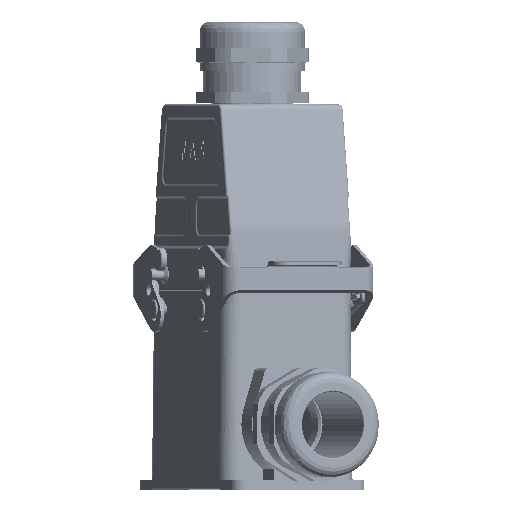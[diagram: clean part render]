
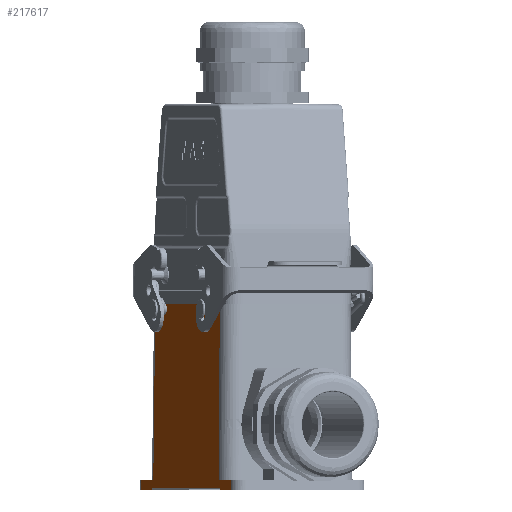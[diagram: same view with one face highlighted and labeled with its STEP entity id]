
A CAD part, left-side view. The second image highlights one B-rep face of the part: STEP entity #217617.
In plain terms, the highlighted planar face has unit normal (-0.383, 0.924, 0.009) as drawn and (0, -1, 0.009) by its records, which use the part's own axes.
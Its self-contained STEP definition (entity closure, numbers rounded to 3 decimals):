
#4034 = VECTOR ( 'NONE', #52625, 1000. ) ;
#5176 = CARTESIAN_POINT ( 'NONE',  ( -47.75, -29.102, -46. ) ) ;
#7457 = EDGE_CURVE ( 'NONE', #119378, #208171, #221746, .T. ) ;
#13367 = EDGE_CURVE ( 'NONE', #123101, #29850, #148685, .T. ) ;
#15692 = CARTESIAN_POINT ( 'NONE',  ( 47.75, -29.136, -50. ) ) ;
#16522 = VERTEX_POINT ( 'NONE', #140476 ) ;
#19801 = DIRECTION ( 'NONE',  ( -0.009, 0.009, 1. ) ) ;
#21823 = VERTEX_POINT ( 'NONE', #146546 ) ;
#22150 = LINE ( 'NONE', #144760, #150536 ) ;
#23745 = VERTEX_POINT ( 'NONE', #160999 ) ;
#24194 = ORIENTED_EDGE ( 'NONE', *, *, #13367, .T. ) ;
#25198 = DIRECTION ( 'NONE',  ( 0., -1., 0.009 ) ) ;
#27460 = FACE_OUTER_BOUND ( 'NONE', #40486, .T. ) ;
#29850 = VERTEX_POINT ( 'NONE', #36845 ) ;
#35224 = VERTEX_POINT ( 'NONE', #180795 ) ;
#36473 = LINE ( 'NONE', #88016, #158799 ) ;
#36845 = CARTESIAN_POINT ( 'NONE',  ( -34.139, -28.476, 25.7 ) ) ;
#38379 = ORIENTED_EDGE ( 'NONE', *, *, #185823, .F. ) ;
#38705 = VECTOR ( 'NONE', #167675, 1000. ) ;
#40486 = EDGE_LOOP ( 'NONE', ( #128742, #203796, #24194, #181359, #83421, #158178, #156403, #169846, #78913, #149621, #170422, #38379, #106857, #130218, #181335, #188204 ) ) ;
#41600 = CARTESIAN_POINT ( 'NONE',  ( 34.584, -28.921, -25.355 ) ) ;
#44444 = EDGE_CURVE ( 'NONE', #133711, #99054, #147790, .T. ) ;
#44628 = EDGE_CURVE ( 'NONE', #21823, #123101, #88071, .T. ) ;
#46736 = DIRECTION ( 'NONE',  ( -1., 0., 0. ) ) ;
#52625 = DIRECTION ( 'NONE',  ( -0.009, 0.009, 1. ) ) ;
#53112 = VERTEX_POINT ( 'NONE', #85234 ) ;
#60773 = DIRECTION ( 'NONE',  ( -0.009, -0.009, -1. ) ) ;
#63719 = CARTESIAN_POINT ( 'NONE',  ( -47.75, -28.476, 25.7 ) ) ;
#64155 = PLANE ( 'NONE',  #157029 ) ;
#65681 = VERTEX_POINT ( 'NONE', #192235 ) ;
#69486 = LINE ( 'NONE', #104945, #133416 ) ;
#73697 = VERTEX_POINT ( 'NONE', #191058 ) ;
#75369 = LINE ( 'NONE', #194539, #81047 ) ;
#77823 = VECTOR ( 'NONE', #220611, 1000. ) ;
#78913 = ORIENTED_EDGE ( 'NONE', *, *, #96812, .T. ) ;
#80546 = EDGE_CURVE ( 'NONE', #65681, #21823, #198516, .T. ) ;
#81047 = VECTOR ( 'NONE', #142976, 1000. ) ;
#83421 = ORIENTED_EDGE ( 'NONE', *, *, #44444, .T. ) ;
#84865 = EDGE_CURVE ( 'NONE', #73697, #189782, #128215, .T. ) ;
#85234 = CARTESIAN_POINT ( 'NONE',  ( 34.765, -29.102, -46. ) ) ;
#86595 = CARTESIAN_POINT ( 'NONE',  ( -36.75, -29.136, -50. ) ) ;
#87439 = LINE ( 'NONE', #91974, #191221 ) ;
#88016 = CARTESIAN_POINT ( 'NONE',  ( 52.25, -29.102, -46. ) ) ;
#88071 = LINE ( 'NONE', #157983, #4034 ) ;
#91974 = CARTESIAN_POINT ( 'NONE',  ( 34.765, -29.102, -46. ) ) ;
#93831 = CARTESIAN_POINT ( 'NONE',  ( -34.765, -29.102, -46. ) ) ;
#96812 = EDGE_CURVE ( 'NONE', #208171, #189782, #175153, .T. ) ;
#99054 = VERTEX_POINT ( 'NONE', #152177 ) ;
#99382 = EDGE_CURVE ( 'NONE', #35224, #53112, #202026, .T. ) ;
#99618 = CARTESIAN_POINT ( 'NONE',  ( 52.25, -28.476, 25.7 ) ) ;
#100300 = VECTOR ( 'NONE', #205667, 1000. ) ;
#100366 = CARTESIAN_POINT ( 'NONE',  ( -34.584, -28.921, -25.355 ) ) ;
#101485 = DIRECTION ( 'NONE',  ( -0.009, -0.009, -1. ) ) ;
#104945 = CARTESIAN_POINT ( 'NONE',  ( -34.139, -28.476, 25.7 ) ) ;
#106414 = DIRECTION ( 'NONE',  ( 1., 0., 0. ) ) ;
#106857 = ORIENTED_EDGE ( 'NONE', *, *, #204397, .T. ) ;
#111463 = DIRECTION ( 'NONE',  ( -0.009, 0.009, 1. ) ) ;
#112989 = LINE ( 'NONE', #131305, #77823 ) ;
#113756 = VECTOR ( 'NONE', #60773, 1000. ) ;
#119378 = VERTEX_POINT ( 'NONE', #5176 ) ;
#119749 = CARTESIAN_POINT ( 'NONE',  ( 52.25, -29.128, -49. ) ) ;
#123101 = VERTEX_POINT ( 'NONE', #165262 ) ;
#123245 = VECTOR ( 'NONE', #46736, 1000. ) ;
#125983 = DIRECTION ( 'NONE',  ( -0.707, -0.006, -0.707 ) ) ;
#128215 = LINE ( 'NONE', #160381, #196389 ) ;
#128742 = ORIENTED_EDGE ( 'NONE', *, *, #80546, .T. ) ;
#129201 = EDGE_CURVE ( 'NONE', #202410, #35224, #112989, .T. ) ;
#130218 = ORIENTED_EDGE ( 'NONE', *, *, #129201, .T. ) ;
#131305 = CARTESIAN_POINT ( 'NONE',  ( 47.75, -28.476, 25.7 ) ) ;
#133416 = VECTOR ( 'NONE', #188623, 1000. ) ;
#133711 = VERTEX_POINT ( 'NONE', #186055 ) ;
#140476 = CARTESIAN_POINT ( 'NONE',  ( 36.75, -29.136, -50. ) ) ;
#142976 = DIRECTION ( 'NONE',  ( 1., 0., 0. ) ) ;
#144760 = CARTESIAN_POINT ( 'NONE',  ( 36.75, -29.136, -50. ) ) ;
#146546 = CARTESIAN_POINT ( 'NONE',  ( 34.549, -28.886, -21.263 ) ) ;
#147347 = DIRECTION ( 'NONE',  ( 0., -0.009, -1. ) ) ;
#147790 = LINE ( 'NONE', #217662, #113756 ) ;
#148685 = LINE ( 'NONE', #183047, #123245 ) ;
#149143 = EDGE_CURVE ( 'NONE', #99054, #155031, #224049, .T. ) ;
#149621 = ORIENTED_EDGE ( 'NONE', *, *, #84865, .F. ) ;
#150536 = VECTOR ( 'NONE', #197413, 1000. ) ;
#151626 = VECTOR ( 'NONE', #111463, 1000. ) ;
#152177 = CARTESIAN_POINT ( 'NONE',  ( -34.584, -28.921, -25.355 ) ) ;
#152862 = EDGE_CURVE ( 'NONE', #73697, #23745, #190720, .T. ) ;
#153951 = VECTOR ( 'NONE', #101485, 1000. ) ;
#155031 = VERTEX_POINT ( 'NONE', #93831 ) ;
#156403 = ORIENTED_EDGE ( 'NONE', *, *, #225329, .T. ) ;
#157029 = AXIS2_PLACEMENT_3D ( 'NONE', #99618, #25198, #186684 ) ;
#157983 = CARTESIAN_POINT ( 'NONE',  ( 34.549, -28.886, -21.263 ) ) ;
#158178 = ORIENTED_EDGE ( 'NONE', *, *, #149143, .T. ) ;
#158799 = VECTOR ( 'NONE', #210607, 1000. ) ;
#160381 = CARTESIAN_POINT ( 'NONE',  ( -35.75, -29.128, -49. ) ) ;
#160999 = CARTESIAN_POINT ( 'NONE',  ( 35.75, -29.128, -49. ) ) ;
#164790 = VECTOR ( 'NONE', #147347, 1000. ) ;
#164912 = EDGE_CURVE ( 'NONE', #53112, #65681, #87439, .T. ) ;
#165262 = CARTESIAN_POINT ( 'NONE',  ( 34.139, -28.476, 25.7 ) ) ;
#167675 = DIRECTION ( 'NONE',  ( -1., 0., 0. ) ) ;
#168509 = CARTESIAN_POINT ( 'NONE',  ( -47.75, -29.136, -50. ) ) ;
#169846 = ORIENTED_EDGE ( 'NONE', *, *, #7457, .T. ) ;
#170422 = ORIENTED_EDGE ( 'NONE', *, *, #152862, .T. ) ;
#175153 = LINE ( 'NONE', #211804, #177544 ) ;
#177544 = VECTOR ( 'NONE', #106414, 1000. ) ;
#180795 = CARTESIAN_POINT ( 'NONE',  ( 47.75, -29.102, -46. ) ) ;
#181335 = ORIENTED_EDGE ( 'NONE', *, *, #99382, .T. ) ;
#181359 = ORIENTED_EDGE ( 'NONE', *, *, #225724, .T. ) ;
#183047 = CARTESIAN_POINT ( 'NONE',  ( 52.25, -28.476, 25.7 ) ) ;
#185823 = EDGE_CURVE ( 'NONE', #16522, #23745, #22150, .T. ) ;
#185990 = CARTESIAN_POINT ( 'NONE',  ( 52.25, -29.102, -46. ) ) ;
#186055 = CARTESIAN_POINT ( 'NONE',  ( -34.549, -28.886, -21.263 ) ) ;
#186684 = DIRECTION ( 'NONE',  ( -1., 0., 0. ) ) ;
#188204 = ORIENTED_EDGE ( 'NONE', *, *, #164912, .T. ) ;
#188623 = DIRECTION ( 'NONE',  ( -0.009, -0.009, -1. ) ) ;
#189782 = VERTEX_POINT ( 'NONE', #86595 ) ;
#190720 = LINE ( 'NONE', #119749, #100300 ) ;
#191058 = CARTESIAN_POINT ( 'NONE',  ( -35.75, -29.128, -49. ) ) ;
#191221 = VECTOR ( 'NONE', #19801, 1000. ) ;
#192235 = CARTESIAN_POINT ( 'NONE',  ( 34.584, -28.921, -25.355 ) ) ;
#194539 = CARTESIAN_POINT ( 'NONE',  ( 52.25, -29.136, -50. ) ) ;
#196389 = VECTOR ( 'NONE', #125983, 1000. ) ;
#197413 = DIRECTION ( 'NONE',  ( -0.707, 0.006, 0.707 ) ) ;
#198516 = LINE ( 'NONE', #41600, #151626 ) ;
#202026 = LINE ( 'NONE', #185990, #38705 ) ;
#202410 = VERTEX_POINT ( 'NONE', #15692 ) ;
#203796 = ORIENTED_EDGE ( 'NONE', *, *, #44628, .T. ) ;
#204397 = EDGE_CURVE ( 'NONE', #16522, #202410, #75369, .T. ) ;
#205667 = DIRECTION ( 'NONE',  ( 1., 0., 0. ) ) ;
#208171 = VERTEX_POINT ( 'NONE', #168509 ) ;
#210607 = DIRECTION ( 'NONE',  ( -1., 0., 0. ) ) ;
#211804 = CARTESIAN_POINT ( 'NONE',  ( 52.25, -29.136, -50. ) ) ;
#217617 = ADVANCED_FACE ( 'NONE', ( #27460 ), #64155, .T. ) ;
#217662 = CARTESIAN_POINT ( 'NONE',  ( -34.549, -28.886, -21.263 ) ) ;
#220611 = DIRECTION ( 'NONE',  ( 0., 0.009, 1. ) ) ;
#221746 = LINE ( 'NONE', #63719, #164790 ) ;
#224049 = LINE ( 'NONE', #100366, #153951 ) ;
#225329 = EDGE_CURVE ( 'NONE', #155031, #119378, #36473, .T. ) ;
#225724 = EDGE_CURVE ( 'NONE', #29850, #133711, #69486, .T. ) ;
